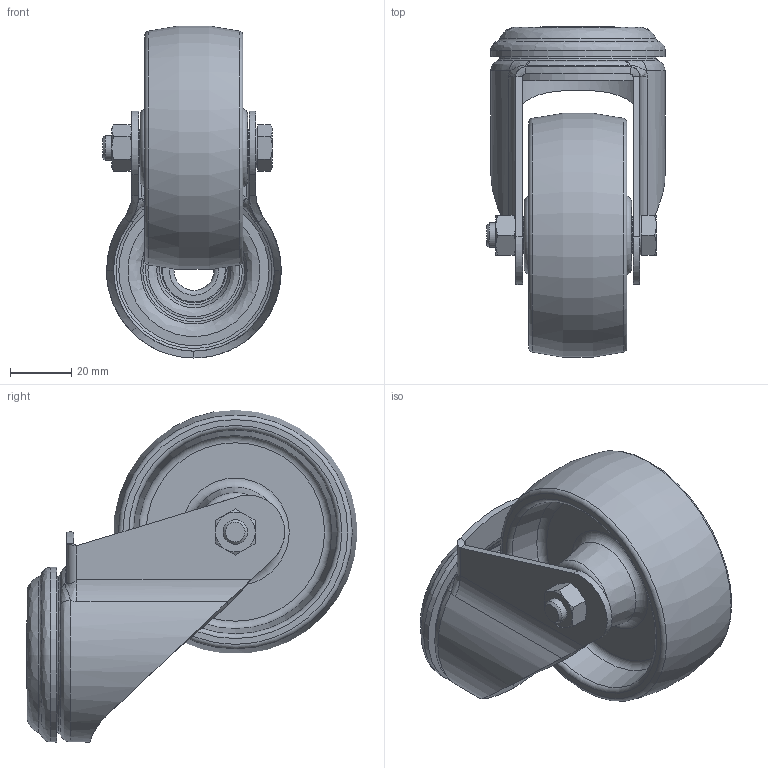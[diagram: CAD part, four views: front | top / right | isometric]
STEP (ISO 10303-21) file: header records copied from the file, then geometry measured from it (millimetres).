
FILE_DESCRIPTION (( 'STEP AP214' ), '1' );
FILE_NAME ('LKRXA-PO_80G_225383-214.step', '2013-03-06T16:13:16', ( '' ), ( '' ), 'SwSTEP 2.0', 'SolidWorks 2010', '' );
FILE_SCHEMA (( 'AUTOMOTIVE_DESIGN' ));
Length unit declared in the file: millimetre
Products named in the file (5): GH-LKRXA_080-13_G15; AM_LKPXA_8x40,5x2,25_D12; PO_G15_PO_80_12G_321299; PO-G-R_G15_PO_80_12G_321299; LKRXA-PO_80G_225383-214
Assembly tree (4 placements, depth 3):
  LKRXA-PO_80G_225383-214
    PO_G15_PO_80_12G_321299
      PO-G-R_G15_PO_80_12G_321299
    AM_LKPXA_8x40,5x2,25_D12
    GH-LKRXA_080-13_G15
Bounding box: 58.25 x 107.75 x 108.29 mm (x, y, z)
Volume: 129776.1 mm3; surface area: 52828.5 mm2
Topology: 3 solids, 3 shells, 526 faces, 1308 edges, 848 vertices
Faces by surface type: plane 275, bspline 180, cone 34, cylinder 26, torus 11
Full cylindrical faces by diameter (mm): 8 x3, 12 x1, 12.2 x1, 13 x2, 20.45 x1, 49 x1, 57 x1
Entity records: 32948 total; most frequent: CARTESIAN_POINT 16142, ORIENTED_EDGE 2470, DIRECTION 1640, EDGE_CURVE 1235, VERTEX_POINT 831, VECTOR 680, LINE 680, EDGE_LOOP 646
